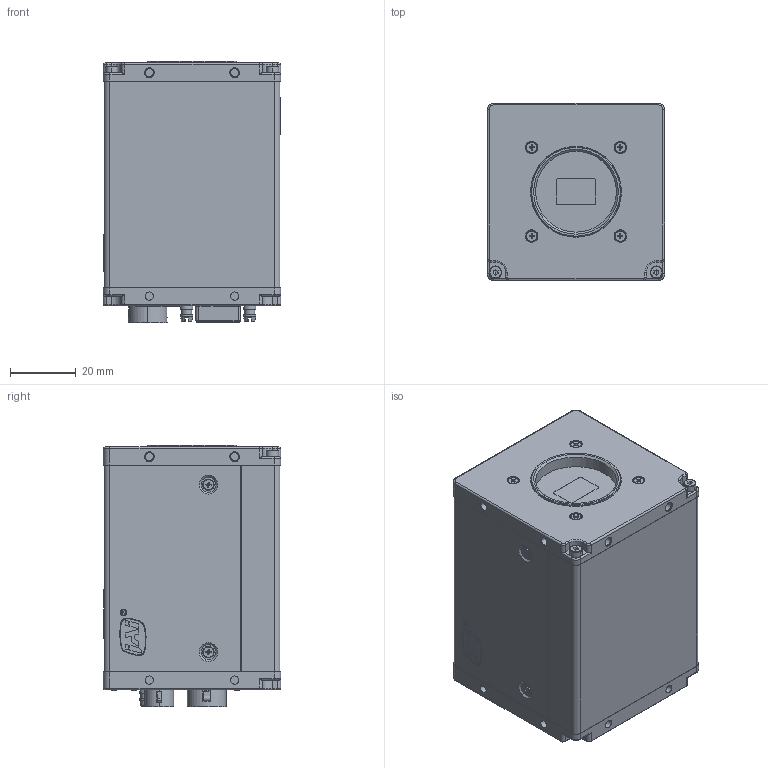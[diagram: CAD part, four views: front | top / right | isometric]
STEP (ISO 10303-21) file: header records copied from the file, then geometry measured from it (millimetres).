
FILE_DESCRIPTION((''),'2;1');
FILE_NAME('PRT0001','2026-04-20T15:03:05',('has'),(''),'CREO PARAMETRIC BY PTC INC, 2024133','CREO PARAMETRIC BY PTC INC, 2024133','');
FILE_SCHEMA(('AUTOMOTIVE_DESIGN { 1 0 10303 214 1 1 1 1 }'));
Products named in the file (1): PRT0001
Bounding box: 54 x 54 x 79.6 mm (x, y, z)
Volume: 211028.1 mm3; surface area: 26289.8 mm2
Topology: 1 solids, 9 shells, 2743 faces, 7482 edges, 4916 vertices
Faces by surface type: plane 1541, cylinder 602, extrusion 338, cone 132, torus 60, sphere 50, bspline 20
Entity records: 100196 total; most frequent: CARTESIAN_POINT 22150, ORIENTED_EDGE 14840, DIRECTION 12915, EDGE_CURVE 7420, VERTEX_POINT 4916, VECTOR 4889, LINE 4551, AXIS2_PLACEMENT_3D 4013
